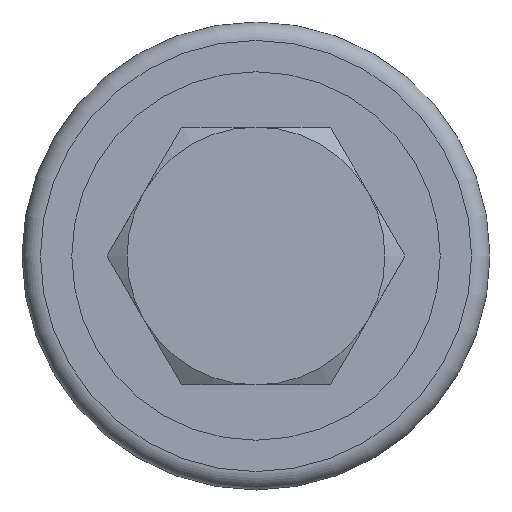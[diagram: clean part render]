
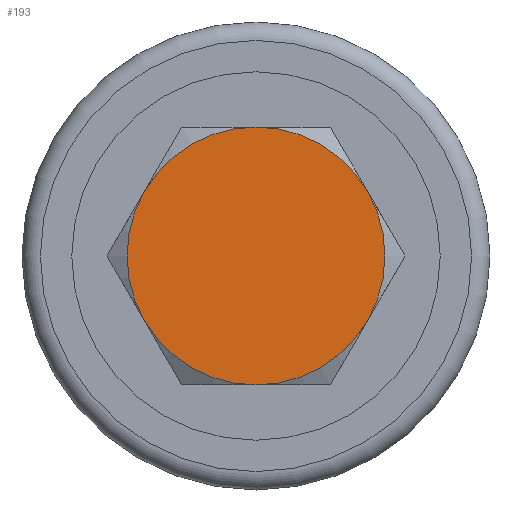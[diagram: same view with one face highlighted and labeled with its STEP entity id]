
A CAD part, front view. The second image highlights one B-rep face of the part: STEP entity #193.
In plain terms, the highlighted planar face has unit normal (0, -1, 0).
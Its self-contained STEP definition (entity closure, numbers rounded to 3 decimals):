
#193=ADVANCED_FACE('',(#281),#282,.T.);
#281=FACE_OUTER_BOUND('',#405,.T.);
#282=PLANE('',#406);
#405=EDGE_LOOP('',(#612,#613,#614,#615,#616,#617));
#406=AXIS2_PLACEMENT_3D('',#618,#619,#620);
#612=ORIENTED_EDGE('',*,*,#863,.T.);
#613=ORIENTED_EDGE('',*,*,#864,.T.);
#614=ORIENTED_EDGE('',*,*,#865,.T.);
#615=ORIENTED_EDGE('',*,*,#821,.T.);
#616=ORIENTED_EDGE('',*,*,#866,.T.);
#617=ORIENTED_EDGE('',*,*,#867,.T.);
#618=CARTESIAN_POINT('',(2.021,-14.,-3.5));
#619=DIRECTION('',(0.0,-1.0,0.0));
#620=DIRECTION('',(0.866,0.0,-0.5));
#821=EDGE_CURVE('',#919,#916,#920,.T.);
#863=EDGE_CURVE('',#995,#925,#996,.T.);
#864=EDGE_CURVE('',#925,#997,#998,.T.);
#865=EDGE_CURVE('',#997,#919,#999,.T.);
#866=EDGE_CURVE('',#916,#1000,#1001,.T.);
#867=EDGE_CURVE('',#1000,#995,#1002,.T.);
#916=VERTEX_POINT('',#1078);
#919=VERTEX_POINT('',#1086);
#920=CIRCLE('',#1087,3.5);
#925=VERTEX_POINT('',#1096);
#995=VERTEX_POINT('',#1201);
#996=CIRCLE('',#1202,3.5);
#997=VERTEX_POINT('',#1203);
#998=CIRCLE('',#1204,3.5);
#999=CIRCLE('',#1205,3.5);
#1000=VERTEX_POINT('',#1206);
#1001=CIRCLE('',#1207,3.5);
#1002=CIRCLE('',#1208,3.5);
#1078=CARTESIAN_POINT('',(0.,-14.,3.5));
#1086=CARTESIAN_POINT('',(3.031,-14.,1.75));
#1087=AXIS2_PLACEMENT_3D('',#1386,#1387,#1388);
#1096=CARTESIAN_POINT('',(0.,-14.,-3.5));
#1201=CARTESIAN_POINT('',(-3.031,-14.,-1.75));
#1202=AXIS2_PLACEMENT_3D('',#1451,#1452,#1453);
#1203=CARTESIAN_POINT('',(3.031,-14.,-1.75));
#1204=AXIS2_PLACEMENT_3D('',#1454,#1455,#1456);
#1205=AXIS2_PLACEMENT_3D('',#1457,#1458,#1459);
#1206=CARTESIAN_POINT('',(-3.031,-14.,1.75));
#1207=AXIS2_PLACEMENT_3D('',#1460,#1461,#1462);
#1208=AXIS2_PLACEMENT_3D('',#1463,#1464,#1465);
#1386=CARTESIAN_POINT('',(0.,-14.,0.));
#1387=DIRECTION('',(0.0,-1.0,0.0));
#1388=DIRECTION('',(0.0,0.0,-1.0));
#1451=CARTESIAN_POINT('',(0.,-14.,0.));
#1452=DIRECTION('',(0.0,-1.0,0.0));
#1453=DIRECTION('',(0.0,0.0,-1.0));
#1454=CARTESIAN_POINT('',(0.,-14.,0.));
#1455=DIRECTION('',(0.0,-1.0,0.0));
#1456=DIRECTION('',(0.0,0.0,-1.0));
#1457=CARTESIAN_POINT('',(0.,-14.,0.));
#1458=DIRECTION('',(0.0,-1.0,0.0));
#1459=DIRECTION('',(0.0,0.0,-1.0));
#1460=CARTESIAN_POINT('',(0.,-14.,0.));
#1461=DIRECTION('',(0.0,-1.0,0.0));
#1462=DIRECTION('',(0.0,0.0,-1.0));
#1463=CARTESIAN_POINT('',(0.,-14.,0.));
#1464=DIRECTION('',(0.0,-1.0,0.0));
#1465=DIRECTION('',(0.0,0.0,-1.0));
